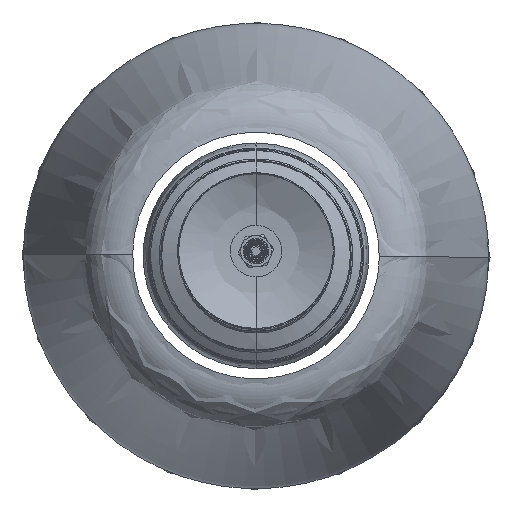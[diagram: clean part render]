
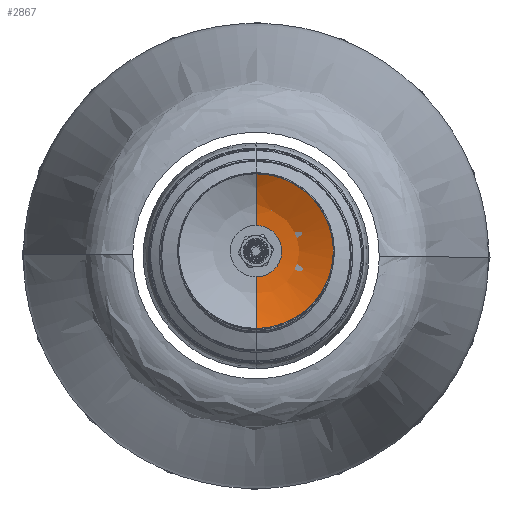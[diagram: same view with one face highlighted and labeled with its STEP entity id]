
A CAD part, top view. The second image highlights one B-rep face of the part: STEP entity #2867.
In plain terms, the highlighted free-form (B-spline) face has degree [2, 2] with [9, 9] control points.
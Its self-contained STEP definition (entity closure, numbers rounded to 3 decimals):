
#2867=ADVANCED_FACE('',(#3921),#16045,.T.);
#3921=FACE_OUTER_BOUND('',#5028,.T.);
#5028=EDGE_LOOP('',(#9174,#9175,#9176,#9177));
#9174=ORIENTED_EDGE('',*,*,#12430,.F.);
#9175=ORIENTED_EDGE('',*,*,#12411,.T.);
#9176=ORIENTED_EDGE('',*,*,#12431,.F.);
#9177=ORIENTED_EDGE('',*,*,#12409,.T.);
#12409=EDGE_CURVE('',#15462,#15460,#13782,.T.);
#12411=EDGE_CURVE('',#15461,#15463,#13784,.T.);
#12430=EDGE_CURVE('',#15461,#15460,#13793,.T.);
#12431=EDGE_CURVE('',#15462,#15463,#13794,.T.);
#13782=(
BOUNDED_CURVE()
B_SPLINE_CURVE(2,(#44003,#44004,#44005),.UNSPECIFIED.,.F.,.F.)
B_SPLINE_CURVE_WITH_KNOTS((3,3),(-42.173,0.),.UNSPECIFIED.)
CURVE()
GEOMETRIC_REPRESENTATION_ITEM()
RATIONAL_B_SPLINE_CURVE((1.,0.959,1.))
REPRESENTATION_ITEM('')
);
#13784=(
BOUNDED_CURVE()
B_SPLINE_CURVE(2,(#44011,#44012,#44013),.UNSPECIFIED.,.F.,.F.)
B_SPLINE_CURVE_WITH_KNOTS((3,3),(-42.173,0.),.UNSPECIFIED.)
CURVE()
GEOMETRIC_REPRESENTATION_ITEM()
RATIONAL_B_SPLINE_CURVE((1.,0.959,1.))
REPRESENTATION_ITEM('')
);
#13793=(
BOUNDED_CURVE()
B_SPLINE_CURVE(2,(#44142,#44143,#44144,#44145,#44146),.UNSPECIFIED.,.F.,
 .F.)
B_SPLINE_CURVE_WITH_KNOTS((3,2,3),(-62.832,-31.416,
0.),.UNSPECIFIED.)
CURVE()
GEOMETRIC_REPRESENTATION_ITEM()
RATIONAL_B_SPLINE_CURVE((1.,0.707,1.,0.707,1.))
REPRESENTATION_ITEM('')
);
#13794=(
BOUNDED_CURVE()
B_SPLINE_CURVE(2,(#44147,#44148,#44149,#44150,#44151),.UNSPECIFIED.,.F.,
 .F.)
B_SPLINE_CURVE_WITH_KNOTS((3,2,3),(-188.207,-94.104,
0.),.UNSPECIFIED.)
CURVE()
GEOMETRIC_REPRESENTATION_ITEM()
RATIONAL_B_SPLINE_CURVE((1.,0.707,1.,0.707,1.))
REPRESENTATION_ITEM('')
);
#15460=VERTEX_POINT('',#43890);
#15461=VERTEX_POINT('',#43891);
#15462=VERTEX_POINT('',#43892);
#15463=VERTEX_POINT('',#43893);
#16045=(
BOUNDED_SURFACE()
B_SPLINE_SURFACE(2,2,((#43546,#43547,#43548,#43549,#43550,#43551,#43552,
#43553,#43554),(#43555,#43556,#43557,#43558,#43559,#43560,#43561,#43562,
#43563),(#43564,#43565,#43566,#43567,#43568,#43569,#43570,#43571,#43572),
(#43573,#43574,#43575,#43576,#43577,#43578,#43579,#43580,#43581),(#43582,
#43583,#43584,#43585,#43586,#43587,#43588,#43589,#43590),(#43591,#43592,
#43593,#43594,#43595,#43596,#43597,#43598,#43599),(#43600,#43601,#43602,
#43603,#43604,#43605,#43606,#43607,#43608),(#43609,#43610,#43611,#43612,
#43613,#43614,#43615,#43616,#43617),(#43618,#43619,#43620,#43621,#43622,
#43623,#43624,#43625,#43626)),.UNSPECIFIED.,.F.,.F.,.F.)
B_SPLINE_SURFACE_WITH_KNOTS((3,2,2,2,3),(3,2,2,2,3),(0.,68.008,
136.016,204.025,272.033),(0.,31.416,
62.832,94.248,125.664),.UNSPECIFIED.)
GEOMETRIC_REPRESENTATION_ITEM()
RATIONAL_B_SPLINE_SURFACE(((1.,0.707,1.,0.707,1.,
0.707,1.,0.707,1.),(0.895,0.633,
0.895,0.633,0.895,0.633,
0.895,0.633,0.895),(1.,0.707,
1.,0.707,1.,0.707,1.,0.707,1.),(0.895,
0.633,0.895,0.633,0.895,
0.633,0.895,0.633,0.895),
(1.,0.707,1.,0.707,1.,0.707,1.,0.707,
1.),(0.895,0.633,0.895,0.633,
0.895,0.633,0.895,0.633,
0.895),(1.,0.707,1.,0.707,1.,0.707,
1.,0.707,1.),(0.895,0.633,0.895,
0.633,0.895,0.633,0.895,
0.633,0.895),(1.,0.707,1.,0.707,
1.,0.707,1.,0.707,1.)))
REPRESENTATION_ITEM('')
SURFACE()
);
#43546=CARTESIAN_POINT('',(4889.,0.,2378.872));
#43547=CARTESIAN_POINT('',(4889.,0.,2378.872));
#43548=CARTESIAN_POINT('',(4889.,0.,2378.872));
#43549=CARTESIAN_POINT('',(4889.,0.,2378.872));
#43550=CARTESIAN_POINT('',(4889.,0.,2378.872));
#43551=CARTESIAN_POINT('',(4889.,0.,2378.872));
#43552=CARTESIAN_POINT('',(4889.,0.,2378.872));
#43553=CARTESIAN_POINT('',(4889.,0.,2378.872));
#43554=CARTESIAN_POINT('',(4889.,0.,2378.872));
#43555=CARTESIAN_POINT('',(4853.733,0.,2368.928));
#43556=CARTESIAN_POINT('',(4853.733,-35.267,2368.928));
#43557=CARTESIAN_POINT('',(4889.,-35.267,2368.928));
#43558=CARTESIAN_POINT('',(4924.267,-35.267,2368.928));
#43559=CARTESIAN_POINT('',(4924.267,0.,2368.928));
#43560=CARTESIAN_POINT('',(4924.267,35.267,2368.928));
#43561=CARTESIAN_POINT('',(4889.,35.267,2368.928));
#43562=CARTESIAN_POINT('',(4853.733,35.267,2368.928));
#43563=CARTESIAN_POINT('',(4853.733,0.,2368.928));
#43564=CARTESIAN_POINT('',(4824.518,0.,2391.044));
#43565=CARTESIAN_POINT('',(4824.518,-64.482,2391.044));
#43566=CARTESIAN_POINT('',(4889.,-64.482,2391.044));
#43567=CARTESIAN_POINT('',(4953.482,-64.482,2391.044));
#43568=CARTESIAN_POINT('',(4953.482,0.,2391.044));
#43569=CARTESIAN_POINT('',(4953.482,64.482,2391.044));
#43570=CARTESIAN_POINT('',(4889.,64.482,2391.044));
#43571=CARTESIAN_POINT('',(4824.518,64.482,2391.044));
#43572=CARTESIAN_POINT('',(4824.518,0.,2391.044));
#43573=CARTESIAN_POINT('',(4795.303,0.,2413.161));
#43574=CARTESIAN_POINT('',(4795.303,-93.697,2413.161));
#43575=CARTESIAN_POINT('',(4889.,-93.697,2413.161));
#43576=CARTESIAN_POINT('',(4982.697,-93.697,2413.161));
#43577=CARTESIAN_POINT('',(4982.697,0.,2413.161));
#43578=CARTESIAN_POINT('',(4982.697,93.697,2413.161));
#43579=CARTESIAN_POINT('',(4889.,93.697,2413.161));
#43580=CARTESIAN_POINT('',(4795.303,93.697,2413.161));
#43581=CARTESIAN_POINT('',(4795.303,0.,2413.161));
#43582=CARTESIAN_POINT('',(4795.303,0.,2449.803));
#43583=CARTESIAN_POINT('',(4795.303,-93.697,2449.803));
#43584=CARTESIAN_POINT('',(4889.,-93.697,2449.803));
#43585=CARTESIAN_POINT('',(4982.697,-93.697,2449.803));
#43586=CARTESIAN_POINT('',(4982.697,0.,2449.803));
#43587=CARTESIAN_POINT('',(4982.697,93.697,2449.803));
#43588=CARTESIAN_POINT('',(4889.,93.697,2449.803));
#43589=CARTESIAN_POINT('',(4795.303,93.697,2449.803));
#43590=CARTESIAN_POINT('',(4795.303,0.,2449.803));
#43591=CARTESIAN_POINT('',(4795.303,0.,2486.445));
#43592=CARTESIAN_POINT('',(4795.303,-93.697,2486.445));
#43593=CARTESIAN_POINT('',(4889.,-93.697,2486.445));
#43594=CARTESIAN_POINT('',(4982.697,-93.697,2486.445));
#43595=CARTESIAN_POINT('',(4982.697,0.,2486.445));
#43596=CARTESIAN_POINT('',(4982.697,93.697,2486.445));
#43597=CARTESIAN_POINT('',(4889.,93.697,2486.445));
#43598=CARTESIAN_POINT('',(4795.303,93.697,2486.445));
#43599=CARTESIAN_POINT('',(4795.303,0.,2486.445));
#43600=CARTESIAN_POINT('',(4824.518,0.,2508.561));
#43601=CARTESIAN_POINT('',(4824.518,-64.482,2508.561));
#43602=CARTESIAN_POINT('',(4889.,-64.482,2508.561));
#43603=CARTESIAN_POINT('',(4953.482,-64.482,2508.561));
#43604=CARTESIAN_POINT('',(4953.482,0.,2508.561));
#43605=CARTESIAN_POINT('',(4953.482,64.482,2508.561));
#43606=CARTESIAN_POINT('',(4889.,64.482,2508.561));
#43607=CARTESIAN_POINT('',(4824.518,64.482,2508.561));
#43608=CARTESIAN_POINT('',(4824.518,0.,2508.561));
#43609=CARTESIAN_POINT('',(4853.733,0.,2530.678));
#43610=CARTESIAN_POINT('',(4853.733,-35.267,2530.678));
#43611=CARTESIAN_POINT('',(4889.,-35.267,2530.678));
#43612=CARTESIAN_POINT('',(4924.267,-35.267,2530.678));
#43613=CARTESIAN_POINT('',(4924.267,0.,2530.678));
#43614=CARTESIAN_POINT('',(4924.267,35.267,2530.678));
#43615=CARTESIAN_POINT('',(4889.,35.267,2530.678));
#43616=CARTESIAN_POINT('',(4853.733,35.267,2530.678));
#43617=CARTESIAN_POINT('',(4853.733,0.,2530.678));
#43618=CARTESIAN_POINT('',(4889.,0.,2520.734));
#43619=CARTESIAN_POINT('',(4889.,0.,2520.734));
#43620=CARTESIAN_POINT('',(4889.,0.,2520.734));
#43621=CARTESIAN_POINT('',(4889.,0.,2520.734));
#43622=CARTESIAN_POINT('',(4889.,0.,2520.734));
#43623=CARTESIAN_POINT('',(4889.,0.,2520.734));
#43624=CARTESIAN_POINT('',(4889.,0.,2520.734));
#43625=CARTESIAN_POINT('',(4889.,0.,2520.734));
#43626=CARTESIAN_POINT('',(4889.,0.,2520.734));
#43890=CARTESIAN_POINT('',(4889.,20.,2376.106));
#43891=CARTESIAN_POINT('',(4889.,-20.,2376.106));
#43892=CARTESIAN_POINT('',(4889.,59.908,2387.847));
#43893=CARTESIAN_POINT('',(4889.,-59.908,2387.847));
#44003=CARTESIAN_POINT('',(4889.,59.908,2387.847));
#44004=CARTESIAN_POINT('',(4889.,41.681,2376.106));
#44005=CARTESIAN_POINT('',(4889.,20.,2376.106));
#44011=CARTESIAN_POINT('',(4889.,-20.,2376.106));
#44012=CARTESIAN_POINT('',(4889.,-41.681,2376.106));
#44013=CARTESIAN_POINT('',(4889.,-59.908,2387.847));
#44142=CARTESIAN_POINT('',(4889.,-20.,2376.106));
#44143=CARTESIAN_POINT('',(4909.,-20.,2376.106));
#44144=CARTESIAN_POINT('',(4909.,0.,2376.106));
#44145=CARTESIAN_POINT('',(4909.,20.,2376.106));
#44146=CARTESIAN_POINT('',(4889.,20.,2376.106));
#44147=CARTESIAN_POINT('',(4889.,59.908,2387.847));
#44148=CARTESIAN_POINT('',(4948.908,59.908,2387.847));
#44149=CARTESIAN_POINT('',(4948.908,0.,2387.847));
#44150=CARTESIAN_POINT('',(4948.908,-59.908,2387.847));
#44151=CARTESIAN_POINT('',(4889.,-59.908,2387.847));
